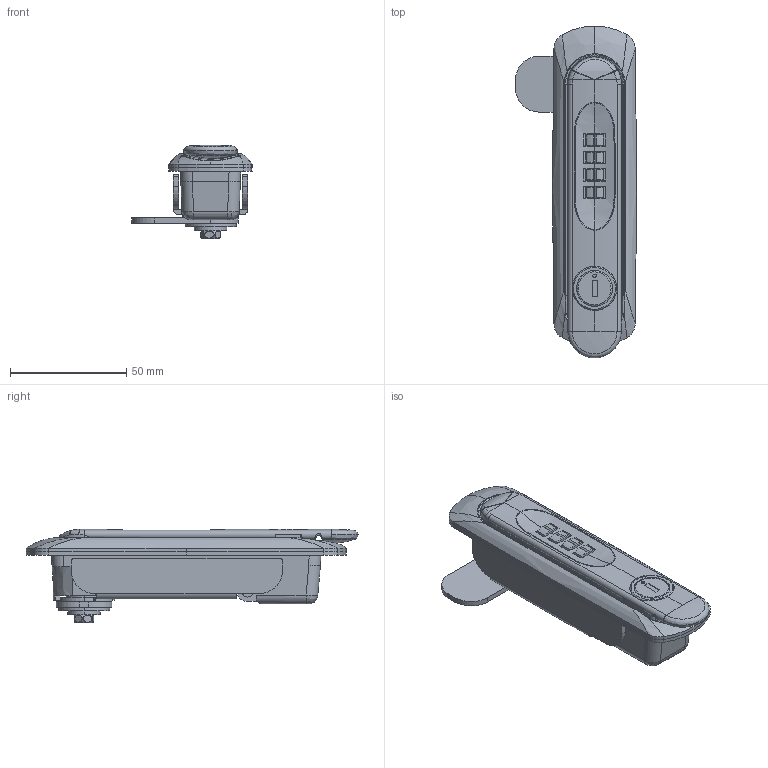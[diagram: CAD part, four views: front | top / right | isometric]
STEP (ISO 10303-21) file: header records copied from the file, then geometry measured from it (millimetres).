
FILE_DESCRIPTION (( 'STEP AP203' ), '1' );
FILE_NAME ('SK1-001.STEP', '2018-11-01T02:06:30', ( 'admin' ), ( 'Microsoft' ), 'SwSTEP 2.0', 'SolidWorks 2015', '' );
FILE_SCHEMA (( 'CONFIG_CONTROL_DESIGN' ));
Length unit declared in the file: millimetre
Products named in the file (1): SK1-001
Bounding box: 52 x 143 x 40.3 mm (x, y, z)
Volume: 71938.2 mm3; surface area: 62535.1 mm2
Topology: 26 solids, 26 shells, 1486 faces, 3850 edges, 2409 vertices
Faces by surface type: plane 663, cylinder 509, cone 190, bspline 124
Entity records: 51889 total; most frequent: CARTESIAN_POINT 16234, ORIENTED_EDGE 7638, DIRECTION 7317, EDGE_CURVE 3819, AXIS2_PLACEMENT_3D 2739, VERTEX_POINT 2409, VECTOR 1839, LINE 1839
